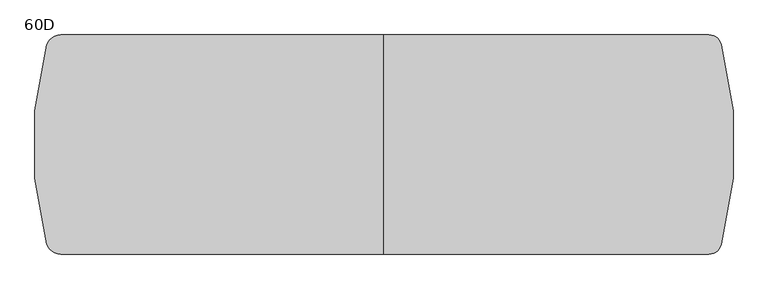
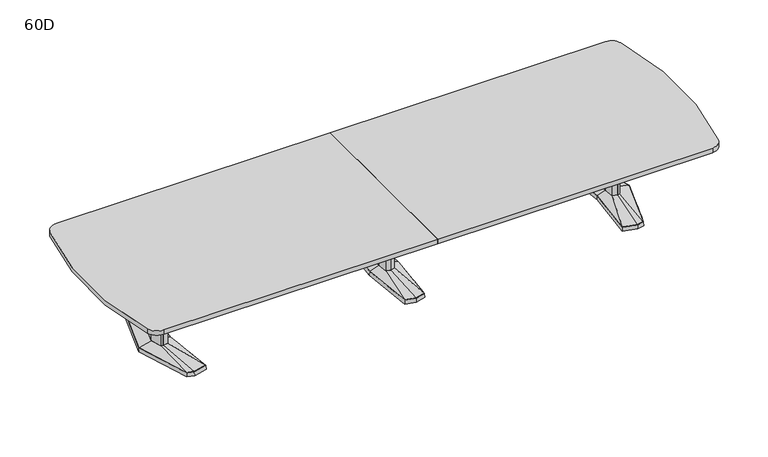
"""IFC4 building model written with IfcOpenShell, lengths in millimetres: furniture geometry, Coalesse_AM_Table_Conference_ETable2_SoftRadiused_16ft_AluminiumBase : 60D."""

from ifc_helpers import new_model, si_unit, point, frame, frame_2d, origin, place, context, project, spatial, polyline, circle_curve, trimmed, segment, composite_curve, outline, extrude, faceted_brep, source, transform, mapped, element, save
from ifc_brep_helpers import plane_surface, spline_surface, advanced_brep


def furniture_60d_8ae94beb(model_context):
    return source(origin(), model_context, "Body", "SolidModel", [
        faceted_brep([(-81.2333791, -433.8053819, 38.1), (0.0, -455.556576, 38.1), (81.2333791, -433.8053819, 38.1), (119.0564774, 0.0, 38.1), (81.2333791, 433.8053819, 38.1), (0.0, 455.556576, 38.1), (-81.2333791, 433.8053819, 38.1), (-119.0564774, 0.0, 38.1), (-82.7182795, -435.0512063, 3.175), (-120.65, 0.0, 3.175), (-82.7182795, 435.0512063, 3.175), (0.0, 457.2, 3.175), (82.7182795, 435.0512063, 3.175), (120.65, 0.0, 3.175), (82.7182795, -435.0512063, 3.175), (0.0, -457.2, 3.175), (0.0, 429.2617927, 3.175), (-77.9676806, 408.3850278, 3.175), (-74.7019821, 382.9646737, 3.175), (0.0, 402.9670094, 3.175), (74.7019821, 382.9646737, 3.175), (77.9676806, 408.3850278, 3.175), (0.0, -429.2617927, 3.175), (77.9676806, -408.3850278, 3.175), (74.7019821, -382.9646737, 3.175), (0.0, -402.9670094, 3.175), (-74.7019821, -382.9646737, 3.175), (-77.9676806, -408.3850278, 3.175), (-71.8574262, 114.6326257, 3.175), (-82.5426076, 0.0, 3.175), (-71.8574262, -114.6326257, 3.175), (0.0, -133.8761372, 3.175), (71.8574262, -114.6326257, 3.175), (82.5426076, 0.0, 3.175), (71.8574262, 114.6326257, 3.175), (0.0, 133.8761372, 3.175), (0.0, 429.2617927, 0.0), (77.9676806, 408.3850278, 0.0), (74.7019821, 382.9646737, 0.0), (0.0, 402.9670094, 0.0), (-74.7019821, 382.9646737, 0.0), (-77.9676806, 408.3850278, 0.0), (0.0, -429.2617927, 0.0), (-77.9676806, -408.3850278, 0.0), (-74.7019821, -382.9646737, 0.0), (0.0, -402.9670094, 0.0), (74.7019821, -382.9646737, 0.0), (77.9676806, -408.3850278, 0.0), (-71.8574262, 114.6326257, 0.0), (0.0, 133.8761372, 0.0), (71.8574262, 114.6326257, 0.0), (82.5426076, 0.0, 0.0), (71.8574262, -114.6326257, 0.0), (0.0, -133.8761372, 0.0), (-71.8574262, -114.6326257, 0.0), (-82.5426076, 0.0, 0.0)], [[[0, 1, 2, 3, 4, 5, 6, 7]], [[8, 9, 10, 11, 12, 13, 14, 15], [16, 17, 18, 19, 20, 21], [22, 23, 24, 25, 26, 27], [28, 29, 30, 31, 32, 33, 34, 35]], [[1, 0, 8, 15]], [[2, 1, 15, 14]], [[3, 2, 14, 13]], [[4, 3, 13, 12]], [[5, 4, 12, 11]], [[6, 5, 11, 10]], [[7, 6, 10, 9]], [[0, 7, 9, 8]], [[36, 37, 38, 39, 40, 41]], [[42, 43, 44, 45, 46, 47]], [[48, 49, 50, 51, 52, 53, 54, 55]], [[36, 41, 17, 16]], [[41, 40, 18, 17]], [[40, 39, 19, 18]], [[39, 38, 20, 19]], [[38, 37, 21, 20]], [[37, 36, 16, 21]], [[42, 47, 23, 22]], [[47, 46, 24, 23]], [[46, 45, 25, 24]], [[45, 44, 26, 25]], [[44, 43, 27, 26]], [[43, 42, 22, 27]], [[48, 55, 29, 28]], [[55, 54, 30, 29]], [[54, 53, 31, 30]], [[53, 52, 32, 31]], [[52, 51, 33, 32]], [[51, 50, 34, 33]], [[50, 49, 35, 34]], [[49, 48, 28, 35]]]),
        faceted_brep([(-36.3832834, 84.6900825, 698.5), (-44.2774487, 0.0, 698.5), (-36.3832834, -84.6900825, 698.5), (0.0, -94.4335728, 698.5), (36.3832834, -84.6900825, 698.5), (44.2774487, 0.0, 698.5), (36.3832834, 84.6900825, 698.5), (0.0, 94.4335728, 698.5), (-36.3832834, 84.6900825, 63.5), (0.0, 94.4335728, 63.5), (36.3832834, 84.6900825, 63.5), (44.2774487, 0.0, 63.5), (36.3832834, -84.6900825, 63.5), (0.0, -94.4335728, 63.5), (-36.3832834, -84.6900825, 63.5), (-44.2774487, 0.0, 63.5)], [[[0, 1, 2, 3, 4, 5, 6, 7]], [[8, 9, 10, 11, 12, 13, 14, 15]], [[1, 0, 8, 15]], [[2, 1, 15, 14]], [[3, 2, 14, 13]], [[4, 3, 13, 12]], [[5, 4, 12, 11]], [[6, 5, 11, 10]], [[7, 6, 10, 9]], [[0, 7, 9, 8]]]),
        advanced_brep(
        [(-36.3832834, 84.6900825, 63.5), (-44.2774487, 0.0, 63.5), (-36.3832834, -84.6900825, 63.5), (0.0, -94.4335728, 63.5), (36.3832834, -84.6900825, 63.5), (44.2774487, 0.0, 63.5), (36.3832834, 84.6900825, 63.5), (0.0, 94.4335728, 63.5), (-81.2333791, 433.8053819, 38.1), (0.0, 455.556576, 38.1), (81.2333791, 433.8053819, 38.1), (119.0564774, 0.0, 38.1), (81.2333791, -433.8053819, 38.1), (0.0, -455.556576, 38.1), (-81.2333791, -433.8053819, 38.1), (-119.0564774, 0.0, 38.1)],
        [
            (0, 1),
            (1, 2),
            (2, 3),
            (3, 4),
            (4, 5),
            (5, 6),
            (6, 7),
            (7, 0),
            (8, 9),
            (9, 10),
            (10, 11),
            (11, 12),
            (12, 13),
            (13, 14),
            (14, 15),
            (15, 8),
            (15, 1),
            (0, 8),
            (14, 2),
            (13, 3),
            (12, 4),
            (11, 5),
            (10, 6),
            (9, 7),
        ],
        [
            plane_surface(frame((0.0, 0.0, 63.5), z_axis=(0.0, 0.0, 1.0000000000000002), x_axis=(-0.9659615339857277, -0.25868574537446, 0.0))),
            plane_surface(frame((0.0, 0.0, 38.1), z_axis=(0.0, 0.0, -1.0000000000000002), x_axis=(-0.9659615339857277, -0.25868574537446, 0.0))),
            spline_surface(1, 1, [[(-81.2333791, 433.8053819, 38.1), (-36.3832834, 84.6900825, 63.5)], [(-119.0564774, 0.0, 38.1), (-44.2774487, 0.0, 63.5)]], [2, 2], [2, 2], [0.0, 1.0], [0.0, 1.0]),
            spline_surface(1, 1, [[(-119.0564774, 0.0, 38.1), (-44.2774487, 0.0, 63.5)], [(-81.2333791, -433.8053819, 38.1), (-36.3832834, -84.6900825, 63.5)]], [2, 2], [2, 2], [0.0, 1.0], [0.0, 1.0]),
            spline_surface(1, 1, [[(-81.2333791, -433.8053819, 38.1), (-36.3832834, -84.6900825, 63.5)], [(0.0, -455.556576, 38.1), (0.0, -94.4335728, 63.5)]], [2, 2], [2, 2], [0.0, 1.0], [0.0, 1.0]),
            spline_surface(1, 1, [[(0.0, -455.556576, 38.1), (0.0, -94.4335728, 63.5)], [(81.2333791, -433.8053819, 38.1), (36.3832834, -84.6900825, 63.5)]], [2, 2], [2, 2], [0.0, 1.0], [0.0, 1.0]),
            spline_surface(1, 1, [[(81.2333791, -433.8053819, 38.1), (36.3832834, -84.6900825, 63.5)], [(119.0564774, 0.0, 38.1), (44.2774487, 0.0, 63.5)]], [2, 2], [2, 2], [0.0, 1.0], [0.0, 1.0]),
            spline_surface(1, 1, [[(119.0564774, 0.0, 38.1), (44.2774487, 0.0, 63.5)], [(81.2333791, 433.8053819, 38.1), (36.3832834, 84.6900825, 63.5)]], [2, 2], [2, 2], [0.0, 1.0], [0.0, 1.0]),
            spline_surface(1, 1, [[(81.2333791, 433.8053819, 38.1), (36.3832834, 84.6900825, 63.5)], [(0.0, 455.556576, 38.1), (0.0, 94.4335728, 63.5)]], [2, 2], [2, 2], [0.0, 1.0], [0.0, 1.0]),
            spline_surface(1, 1, [[(0.0, 455.556576, 38.1), (0.0, 94.4335728, 63.5)], [(-81.2333791, 433.8053819, 38.1), (-36.3832834, 84.6900825, 63.5)]], [2, 2], [2, 2], [0.0, 1.0], [0.0, 1.0]),
        ],
        [
            (0, [[1, 2, 3, 4, 5, 6, 7, 8]]),
            (1, [[9, 10, 11, 12, 13, 14, 15, 16]]),
            (2, [[-16, 17, -1, 18]]),
            (3, [[-15, 19, -2, -17]]),
            (4, [[-14, 20, -3, -19]]),
            (5, [[-13, 21, -4, -20]]),
            (6, [[-12, 22, -5, -21]]),
            (7, [[-11, 23, -6, -22]]),
            (8, [[-10, 24, -7, -23]]),
            (9, [[-9, -18, -8, -24]]),
        ],
    ),
        faceted_brep([(1820.2306835, 455.5848221, 38.1), (1710.6531277, 426.2263816, 38.1), (1751.8163717, 0.0, 38.1), (1710.6531277, -426.2263816, 38.1), (1820.2306835, -455.5848221, 38.1), (1876.3570396, -440.5478297, 38.1), (2013.6684269, 0.0, 38.1), (1876.3570396, 440.5478297, 38.1), (1820.2306754, 457.2283104, 3.175), (1877.6124472, 441.8549756, 3.175), (2015.33125, 0.0, 3.175), (1877.6124472, -441.8549756, 3.175), (1820.2306754, -457.2283104, 3.175), (1708.94375, -427.4118891, 3.175), (1750.2214856, 0.0, 3.175), (1708.94375, 427.4118891, 3.175), (1823.820115, 428.3273875, 3.175), (1718.7718228, 402.1057253, 3.175), (1726.890518, 377.985069, 3.175), (1827.4095466, 401.0699529, 3.175), (1877.9691725, 387.524361, 3.175), (1877.1631061, 414.0360954, 3.175), (1823.820115, -428.3273875, 3.175), (1877.1631061, -414.0360954, 3.175), (1877.9691725, -387.524361, 3.175), (1827.4095466, -401.0699529, 3.175), (1726.890518, -377.985069, 3.175), (1718.7718228, -402.1057253, 3.175), (1950.4153621, 0.0, 3.175), (1918.1459611, 120.4193755, 3.175), (1869.4987222, 133.471665, 3.175), (1789.6180526, 119.4176561, 3.175), (1778.4868466, 0.0, 3.175), (1789.6180526, -119.4176561, 3.175), (1869.4987222, -133.471665, 3.175), (1918.1459611, -120.4193755, 3.175), (1823.820115, 428.3273875, 0.0), (1877.1631061, 414.0360954, 0.0), (1877.9691725, 387.524361, 0.0), (1827.4095466, 401.0699529, 0.0), (1726.890518, 377.985069, 0.0), (1718.7718228, 402.1057253, 0.0), (1823.820115, -428.3273875, 0.0), (1718.7718228, -402.1057253, 0.0), (1726.890518, -377.985069, 0.0), (1827.4095466, -401.0699529, 0.0), (1877.9691725, -387.524361, 0.0), (1877.1631061, -414.0360954, 0.0), (1950.4153621, 0.0, 0.0), (1918.1459611, -120.4193755, 0.0), (1869.4987222, -133.471665, 0.0), (1789.6180526, -119.4176561, 0.0), (1778.4868466, 0.0, 0.0), (1789.6180526, 119.4176561, 0.0), (1869.4987222, 133.471665, 0.0), (1918.1459611, 120.4193755, 0.0)], [[[0, 1, 2, 3, 4, 5, 6, 7]], [[8, 9, 10, 11, 12, 13, 14, 15], [16, 17, 18, 19, 20, 21], [22, 23, 24, 25, 26, 27], [28, 29, 30, 31, 32, 33, 34, 35]], [[7, 9, 8, 0]], [[6, 10, 9, 7]], [[5, 11, 10, 6]], [[4, 12, 11, 5]], [[3, 13, 12, 4]], [[2, 14, 13, 3]], [[1, 15, 14, 2]], [[0, 8, 15, 1]], [[36, 37, 38, 39, 40, 41]], [[42, 43, 44, 45, 46, 47]], [[48, 49, 50, 51, 52, 53, 54, 55]], [[36, 16, 21, 37]], [[37, 21, 20, 38]], [[38, 20, 19, 39]], [[39, 19, 18, 40]], [[40, 18, 17, 41]], [[41, 17, 16, 36]], [[42, 22, 27, 43]], [[43, 27, 26, 44]], [[44, 26, 25, 45]], [[45, 25, 24, 46]], [[46, 24, 23, 47]], [[47, 23, 22, 42]], [[48, 28, 35, 49]], [[49, 35, 34, 50]], [[50, 34, 33, 51]], [[51, 33, 32, 52]], [[52, 32, 31, 53]], [[53, 31, 30, 54]], [[54, 30, 29, 55]], [[55, 29, 28, 48]]]),
        faceted_brep([(1910.9710836, 0.0, 698.5), (1887.0358546, 89.3188359, 698.5), (1870.1824984, 93.8406728, 698.5), (1867.7826511, 94.4845635, 698.5), (1824.855146, 86.9320037, 698.5), (1816.7520056, 0.0, 698.5), (1824.855146, -86.9320037, 698.5), (1867.7826511, -94.4845635, 698.5), (1870.1824984, -93.8406728, 698.5), (1887.0358546, -89.3188359, 698.5), (1910.9710836, 0.0, 63.5), (1887.0358546, -89.3188359, 63.5), (1870.1824984, -93.8406728, 63.5), (1867.7826511, -94.4845635, 63.5), (1824.855146, -86.9320037, 63.5), (1816.7520056, 0.0, 63.5), (1824.855146, 86.9320037, 63.5), (1867.7826511, 94.4845635, 63.5), (1870.1824984, 93.8406728, 63.5), (1887.0358546, 89.3188359, 63.5)], [[[0, 1, 2, 3, 4, 5, 6, 7, 8, 9]], [[10, 11, 12, 13, 14, 15, 16, 17, 18, 19]], [[9, 11, 10, 0]], [[8, 12, 11, 9]], [[7, 13, 12, 8]], [[6, 14, 13, 7]], [[5, 15, 14, 6]], [[4, 16, 15, 5]], [[3, 17, 16, 4]], [[2, 18, 17, 3]], [[1, 19, 18, 2]], [[0, 10, 19, 1]]]),
        advanced_brep(
        [(1867.7826511, 94.4845635, 63.5), (1824.855146, 86.9320037, 63.5), (1816.7520056, 0.0, 63.5), (1824.855146, -86.9320037, 63.5), (1867.7826511, -94.4845635, 63.5), (1887.0358546, -89.3188359, 63.5), (1910.9710836, 0.0, 63.5), (1887.0358546, 89.3188359, 63.5), (1820.2306835, 455.5848221, 38.1), (1876.3570396, 440.5478297, 38.1), (2013.6684269, 0.0, 38.1), (1876.3570396, -440.5478297, 38.1), (1820.2306835, -455.5848221, 38.1), (1710.6531277, -426.2263816, 38.1), (1751.8163717, 0.0, 38.1), (1710.6531277, 426.2263816, 38.1)],
        [
            (0, 1),
            (1, 2),
            (2, 3),
            (3, 4),
            (4, 5),
            (5, 6),
            (6, 7),
            (7, 0),
            (8, 9),
            (9, 10),
            (10, 11),
            (11, 12),
            (12, 13),
            (13, 14),
            (14, 15),
            (15, 8),
            (8, 0),
            (7, 9),
            (6, 10),
            (5, 11),
            (4, 12),
            (3, 13),
            (2, 14),
            (1, 15),
        ],
        [
            plane_surface(frame((1860.8837991, 0.0, 63.5), z_axis=(0.0, 0.0, 1.0), x_axis=(-0.25884244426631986, -0.9659195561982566, 0.0))),
            plane_surface(frame((1822.4958125, 0.0, 38.1), z_axis=(0.0, 0.0, -1.0), x_axis=(-0.25884244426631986, -0.9659195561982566, 0.0))),
            spline_surface(1, 1, [[(1820.2306835, 455.5848221, 38.1), (1876.3570396, 440.5478297, 38.1)], [(1867.7826511, 94.4845635, 63.5), (1887.0358546, 89.3188359, 63.5)]], [2, 2], [2, 2], [0.0, 1.0], [0.0, 1.0]),
            spline_surface(1, 1, [[(1876.3570396, 440.5478297, 38.1), (2013.6684269, 0.0, 38.1)], [(1887.0358546, 89.3188359, 63.5), (1910.9710836, 0.0, 63.5)]], [2, 2], [2, 2], [0.0, 1.0], [0.0, 1.0]),
            spline_surface(1, 1, [[(2013.6684269, 0.0, 38.1), (1876.3570396, -440.5478297, 38.1)], [(1910.9710836, 0.0, 63.5), (1887.0358546, -89.3188359, 63.5)]], [2, 2], [2, 2], [0.0, 1.0], [0.0, 1.0]),
            spline_surface(1, 1, [[(1876.3570396, -440.5478297, 38.1), (1820.2306835, -455.5848221, 38.1)], [(1887.0358546, -89.3188359, 63.5), (1867.7826511, -94.4845635, 63.5)]], [2, 2], [2, 2], [0.0, 1.0], [0.0, 1.0]),
            spline_surface(1, 1, [[(1820.2306835, -455.5848221, 38.1), (1710.6531277, -426.2263816, 38.1)], [(1867.7826511, -94.4845635, 63.5), (1824.855146, -86.9320037, 63.5)]], [2, 2], [2, 2], [0.0, 1.0], [0.0, 1.0]),
            spline_surface(1, 1, [[(1710.6531277, -426.2263816, 38.1), (1751.8163717, 0.0, 38.1)], [(1824.855146, -86.9320037, 63.5), (1816.7520056, 0.0, 63.5)]], [2, 2], [2, 2], [0.0, 1.0], [0.0, 1.0]),
            spline_surface(1, 1, [[(1751.8163717, 0.0, 38.1), (1710.6531277, 426.2263816, 38.1)], [(1816.7520056, 0.0, 63.5), (1824.855146, 86.9320037, 63.5)]], [2, 2], [2, 2], [0.0, 1.0], [0.0, 1.0]),
            spline_surface(1, 1, [[(1710.6531277, 426.2263816, 38.1), (1820.2306835, 455.5848221, 38.1)], [(1824.855146, 86.9320037, 63.5), (1867.7826511, 94.4845635, 63.5)]], [2, 2], [2, 2], [0.0, 1.0], [0.0, 1.0]),
        ],
        [
            (0, [[1, 2, 3, 4, 5, 6, 7, 8]]),
            (1, [[9, 10, 11, 12, 13, 14, 15, 16]]),
            (2, [[17, -8, 18, -9]]),
            (3, [[-18, -7, 19, -10]]),
            (4, [[-19, -6, 20, -11]]),
            (5, [[-20, -5, 21, -12]]),
            (6, [[-21, -4, 22, -13]]),
            (7, [[-22, -3, 23, -14]]),
            (8, [[-23, -2, 24, -15]]),
            (9, [[-24, -1, -17, -16]]),
        ],
    ),
        faceted_brep([(-1820.2306835, 455.5848221, 38.1), (-1876.3570396, 440.5478297, 38.1), (-2013.6684269, 0.0, 38.1), (-1876.3570396, -440.5478297, 38.1), (-1820.2306835, -455.5848221, 38.1), (-1710.6531277, -426.2263816, 38.1), (-1751.8163717, 0.0, 38.1), (-1710.6531277, 426.2263816, 38.1), (-1820.2306754, 457.2283104, 3.175), (-1708.94375, 427.4118891, 3.175), (-1750.2214856, 0.0, 3.175), (-1708.94375, -427.4118891, 3.175), (-1820.2306754, -457.2283104, 3.175), (-1877.6124472, -441.8549756, 3.175), (-2015.33125, 0.0, 3.175), (-1877.6124472, 441.8549756, 3.175), (-1823.820115, 428.3273875, 3.175), (-1877.1631061, 414.0360954, 3.175), (-1877.9691725, 387.524361, 3.175), (-1827.4095466, 401.0699529, 3.175), (-1726.890518, 377.985069, 3.175), (-1718.7718228, 402.1057253, 3.175), (-1823.820115, -428.3273875, 3.175), (-1718.7718228, -402.1057253, 3.175), (-1726.890518, -377.985069, 3.175), (-1827.4095466, -401.0699529, 3.175), (-1877.9691725, -387.524361, 3.175), (-1877.1631061, -414.0360954, 3.175), (-1950.4153621, 0.0, 3.175), (-1918.1459611, -120.4193755, 3.175), (-1869.4987222, -133.471665, 3.175), (-1789.6180526, -119.4176561, 3.175), (-1778.4868466, 0.0, 3.175), (-1789.6180526, 119.4176561, 3.175), (-1869.4987222, 133.471665, 3.175), (-1918.1459611, 120.4193755, 3.175), (-1823.820115, 428.3273875, 0.0), (-1718.7718228, 402.1057253, 0.0), (-1726.890518, 377.985069, 0.0), (-1827.4095466, 401.0699529, 0.0), (-1877.9691725, 387.524361, 0.0), (-1877.1631061, 414.0360954, 0.0), (-1823.820115, -428.3273875, 0.0), (-1877.1631061, -414.0360954, 0.0), (-1877.9691725, -387.524361, 0.0), (-1827.4095466, -401.0699529, 0.0), (-1726.890518, -377.985069, 0.0), (-1718.7718228, -402.1057253, 0.0), (-1950.4153621, 0.0, 0.0), (-1918.1459611, 120.4193755, 0.0), (-1869.4987222, 133.471665, 0.0), (-1789.6180526, 119.4176561, 0.0), (-1778.4868466, 0.0, 0.0), (-1789.6180526, -119.4176561, 0.0), (-1869.4987222, -133.471665, 0.0), (-1918.1459611, -120.4193755, 0.0)], [[[0, 1, 2, 3, 4, 5, 6, 7]], [[8, 9, 10, 11, 12, 13, 14, 15], [16, 17, 18, 19, 20, 21], [22, 23, 24, 25, 26, 27], [28, 29, 30, 31, 32, 33, 34, 35]], [[1, 0, 8, 15]], [[2, 1, 15, 14]], [[3, 2, 14, 13]], [[4, 3, 13, 12]], [[5, 4, 12, 11]], [[6, 5, 11, 10]], [[7, 6, 10, 9]], [[0, 7, 9, 8]], [[36, 37, 38, 39, 40, 41]], [[42, 43, 44, 45, 46, 47]], [[48, 49, 50, 51, 52, 53, 54, 55]], [[36, 41, 17, 16]], [[41, 40, 18, 17]], [[40, 39, 19, 18]], [[39, 38, 20, 19]], [[38, 37, 21, 20]], [[37, 36, 16, 21]], [[42, 47, 23, 22]], [[47, 46, 24, 23]], [[46, 45, 25, 24]], [[45, 44, 26, 25]], [[44, 43, 27, 26]], [[43, 42, 22, 27]], [[48, 55, 29, 28]], [[55, 54, 30, 29]], [[54, 53, 31, 30]], [[53, 52, 32, 31]], [[52, 51, 33, 32]], [[51, 50, 34, 33]], [[50, 49, 35, 34]], [[49, 48, 28, 35]]]),
        faceted_brep([(-1910.9710836, 0.0, 698.5), (-1887.0358546, -89.3188359, 698.5), (-1870.1824984, -93.8406728, 698.5), (-1867.7826511, -94.4845635, 698.5), (-1824.855146, -86.9320037, 698.5), (-1816.7520056, 0.0, 698.5), (-1824.855146, 86.9320037, 698.5), (-1867.7826511, 94.4845635, 698.5), (-1870.1824984, 93.8406728, 698.5), (-1887.0358546, 89.3188359, 698.5), (-1910.9710836, 0.0, 63.5), (-1887.0358546, 89.3188359, 63.5), (-1870.1824984, 93.8406728, 63.5), (-1867.7826511, 94.4845635, 63.5), (-1824.855146, 86.9320037, 63.5), (-1816.7520056, 0.0, 63.5), (-1824.855146, -86.9320037, 63.5), (-1867.7826511, -94.4845635, 63.5), (-1870.1824984, -93.8406728, 63.5), (-1887.0358546, -89.3188359, 63.5)], [[[0, 1, 2, 3, 4, 5, 6, 7, 8, 9]], [[10, 11, 12, 13, 14, 15, 16, 17, 18, 19]], [[1, 0, 10, 19]], [[2, 1, 19, 18]], [[3, 2, 18, 17]], [[4, 3, 17, 16]], [[5, 4, 16, 15]], [[6, 5, 15, 14]], [[7, 6, 14, 13]], [[8, 7, 13, 12]], [[9, 8, 12, 11]], [[0, 9, 11, 10]]]),
        advanced_brep(
        [(-1867.7826511, 94.4845635, 63.5), (-1887.0358546, 89.3188359, 63.5), (-1910.9710836, 0.0, 63.5), (-1887.0358546, -89.3188359, 63.5), (-1867.7826511, -94.4845635, 63.5), (-1824.855146, -86.9320037, 63.5), (-1816.7520056, 0.0, 63.5), (-1824.855146, 86.9320037, 63.5), (-1820.2306835, 455.5848221, 38.1), (-1710.6531277, 426.2263816, 38.1), (-1751.8163717, 0.0, 38.1), (-1710.6531277, -426.2263816, 38.1), (-1820.2306835, -455.5848221, 38.1), (-1876.3570396, -440.5478297, 38.1), (-2013.6684269, 0.0, 38.1), (-1876.3570396, 440.5478297, 38.1)],
        [
            (0, 1),
            (1, 2),
            (2, 3),
            (3, 4),
            (4, 5),
            (5, 6),
            (6, 7),
            (7, 0),
            (8, 9),
            (9, 10),
            (10, 11),
            (11, 12),
            (12, 13),
            (13, 14),
            (14, 15),
            (15, 8),
            (15, 1),
            (0, 8),
            (14, 2),
            (13, 3),
            (12, 4),
            (11, 5),
            (10, 6),
            (9, 7),
        ],
        [
            plane_surface(frame((-1860.8837991, 0.0, 63.5), z_axis=(0.0, 0.0, 1.0), x_axis=(0.25884244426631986, -0.9659195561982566, 0.0))),
            plane_surface(frame((-1822.4958125, 0.0, 38.1), z_axis=(0.0, 0.0, -1.0), x_axis=(0.25884244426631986, -0.9659195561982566, 0.0))),
            spline_surface(1, 1, [[(-1820.2306835, 455.5848221, 38.1), (-1867.7826511, 94.4845635, 63.5)], [(-1876.3570396, 440.5478297, 38.1), (-1887.0358546, 89.3188359, 63.5)]], [2, 2], [2, 2], [0.0, 1.0], [0.0, 1.0]),
            spline_surface(1, 1, [[(-1876.3570396, 440.5478297, 38.1), (-1887.0358546, 89.3188359, 63.5)], [(-2013.6684269, 0.0, 38.1), (-1910.9710836, 0.0, 63.5)]], [2, 2], [2, 2], [0.0, 1.0], [0.0, 1.0]),
            spline_surface(1, 1, [[(-2013.6684269, 0.0, 38.1), (-1910.9710836, 0.0, 63.5)], [(-1876.3570396, -440.5478297, 38.1), (-1887.0358546, -89.3188359, 63.5)]], [2, 2], [2, 2], [0.0, 1.0], [0.0, 1.0]),
            spline_surface(1, 1, [[(-1876.3570396, -440.5478297, 38.1), (-1887.0358546, -89.3188359, 63.5)], [(-1820.2306835, -455.5848221, 38.1), (-1867.7826511, -94.4845635, 63.5)]], [2, 2], [2, 2], [0.0, 1.0], [0.0, 1.0]),
            spline_surface(1, 1, [[(-1820.2306835, -455.5848221, 38.1), (-1867.7826511, -94.4845635, 63.5)], [(-1710.6531277, -426.2263816, 38.1), (-1824.855146, -86.9320037, 63.5)]], [2, 2], [2, 2], [0.0, 1.0], [0.0, 1.0]),
            spline_surface(1, 1, [[(-1710.6531277, -426.2263816, 38.1), (-1824.855146, -86.9320037, 63.5)], [(-1751.8163717, 0.0, 38.1), (-1816.7520056, 0.0, 63.5)]], [2, 2], [2, 2], [0.0, 1.0], [0.0, 1.0]),
            spline_surface(1, 1, [[(-1751.8163717, 0.0, 38.1), (-1816.7520056, 0.0, 63.5)], [(-1710.6531277, 426.2263816, 38.1), (-1824.855146, 86.9320037, 63.5)]], [2, 2], [2, 2], [0.0, 1.0], [0.0, 1.0]),
            spline_surface(1, 1, [[(-1710.6531277, 426.2263816, 38.1), (-1824.855146, 86.9320037, 63.5)], [(-1820.2306835, 455.5848221, 38.1), (-1867.7826511, 94.4845635, 63.5)]], [2, 2], [2, 2], [0.0, 1.0], [0.0, 1.0]),
        ],
        [
            (0, [[1, 2, 3, 4, 5, 6, 7, 8]]),
            (1, [[9, 10, 11, 12, 13, 14, 15, 16]]),
            (2, [[-16, 17, -1, 18]]),
            (3, [[-15, 19, -2, -17]]),
            (4, [[-14, 20, -3, -19]]),
            (5, [[-13, 21, -4, -20]]),
            (6, [[-12, 22, -5, -21]]),
            (7, [[-11, 23, -6, -22]]),
            (8, [[-10, 24, -7, -23]]),
            (9, [[-9, -18, -8, -24]]),
        ],
    ),
        extrude(outline(composite_curve([segment(trimmed(circle_curve(frame_2d((2258.9617771, 673.4532728)), 88.5467272), [point((2258.9617771, 762.0))], [point((2344.9932067, 694.4083682))], False, "CARTESIAN"), True, "CONTINUOUS"), segment(trimmed(circle_curve(frame_2d((-189.5020685, 0.0)), 2627.9020685), [point((2344.9932067, 694.4083682))], [point((2344.9932067, -694.4083682))], False, "CARTESIAN"), True, "CONTINUOUS"), segment(trimmed(circle_curve(frame_2d((2258.9617771, -673.4532728)), 88.5467272), [point((2344.9932067, -694.4083682))], [point((2258.9617771, -762.0))], False, "CARTESIAN"), True, "CONTINUOUS"), segment(polyline([(2258.9617771, -762.0), (0.0, -762.0), (0.0, 762.0), (2258.9617771, 762.0)]), True, "CONTINUOUS")], self_intersect=False)), frame((0.0, 0.0, 698.5), z_axis=(0.0, 0.0, 1.0), x_axis=(1.0, 0.0, 0.0)), (0.0, 0.0, 1.0), 38.1),
        extrude(outline(composite_curve([segment(polyline([(0.0, 762.0), (0.0, -762.0), (-2249.2540251, -762.0)]), True, "CONTINUOUS"), segment(trimmed(circle_curve(frame_2d((-2249.2540251, -660.4)), 101.6), [point((-2249.2540251, -762.0))], [point((-2344.9932067, -694.4083682))], False, "CARTESIAN"), True, "CONTINUOUS"), segment(trimmed(circle_curve(frame_2d((189.5020685, 0.0)), 2627.9020685), [point((-2344.9932067, -694.4083682))], [point((-2344.9932067, 694.4083682))], False, "CARTESIAN"), True, "CONTINUOUS"), segment(trimmed(circle_curve(frame_2d((-2249.2540251, 660.4)), 101.6), [point((-2344.9932067, 694.4083682))], [point((-2249.2540251, 762.0))], False, "CARTESIAN"), True, "CONTINUOUS"), segment(polyline([(-2249.2540251, 762.0), (0.0, 762.0)]), True, "CONTINUOUS")], self_intersect=False)), frame((0.0, 0.0, 698.5), z_axis=(0.0, 0.0, 1.0), x_axis=(1.0, 0.0, 0.0)), (0.0, 0.0, 1.0), 38.1),
        extrude(outline(polyline([(96.8375, 698.5), (103.1875, 698.5), (103.1875, 476.25), (-103.1875, 476.25), (-103.1875, 698.5), (-96.8375, 698.5), (-96.8375, 482.6), (96.8375, 482.6), (96.8375, 698.5)])), frame((-1816.89375, 0.0, 0.0), z_axis=(1.0, 0.0, 0.0), x_axis=(0.0, 1.0, 0.0)), (0.0, 0.0, 1.0), 3633.7875),
    ])


if __name__ == "__main__":
    model = new_model("IFC4")
    model_context = context("Model", 3, world=origin())
    ifc_project = project(units=[si_unit("LENGTHUNIT", "METRE", prefix="MILLI")], contexts=[model_context])
    site = spatial("IfcSite", under=ifc_project)
    building = spatial("IfcBuilding", under=site)
    placement = place(None, origin())
    furniture_60d_shape = furniture_60d_8ae94beb(model_context)
    element("IfcFurniture", 1, ObjectType="Coalesse_AM_Table_Conference_ETable2_SoftRadiused_16ft_AluminiumBase : 60D", at=placement, inside=building, context=model_context, shape_type="MappedRepresentation", body=[
        mapped(furniture_60d_shape, transform((0.0, 0.0, 0.0), x_axis=(1.0, 0.0, 0.0), y_axis=(0.0, 1.0, 0.0), z_axis=(0.0, 0.0, 1.0))),
    ])
    save(model, "model.ifc")
